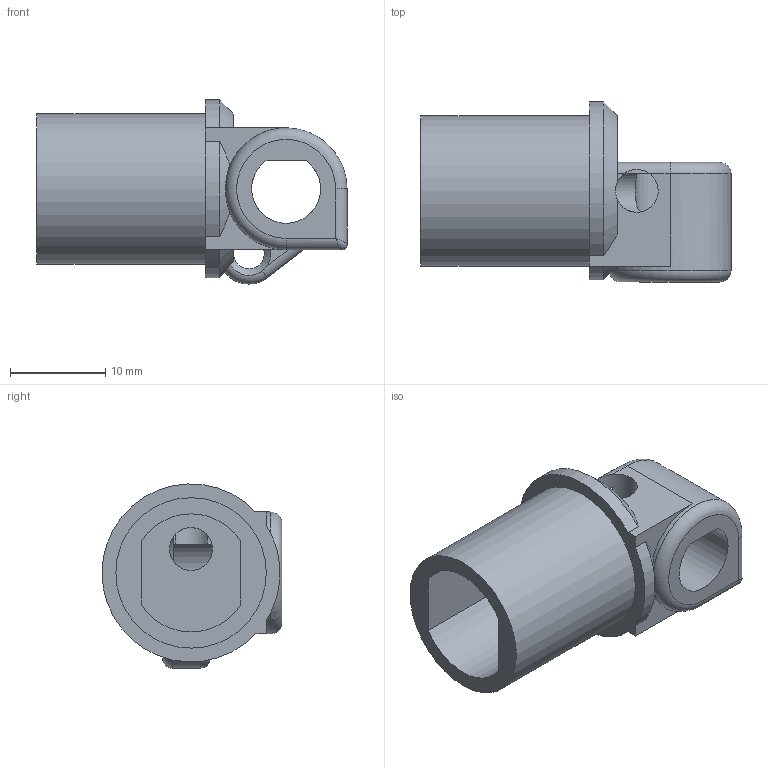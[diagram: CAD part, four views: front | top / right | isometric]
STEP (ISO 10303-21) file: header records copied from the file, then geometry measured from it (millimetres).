
FILE_DESCRIPTION(('Open CASCADE Model'),'2;1');
FILE_NAME('Open CASCADE Shape Model','2026-11-09T05:25:47',('Author'),( 'Open CASCADE'),'Open CASCADE STEP processor 8.0','build123d', 'Unknown');
FILE_SCHEMA(('AUTOMOTIVE_DESIGN { 1 0 10303 214 1 1 1 1 }'));
Length unit declared in the file: millimetre
Products named in the file (1): COMPOUND
Bounding box: 32.57 x 18.9 x 19.34 mm (x, y, z)
Volume: 3537.7 mm3; surface area: 3083.7 mm2
Topology: 1 solids, 1 shells, 59 faces, 172 edges, 109 vertices
Faces by surface type: plane 25, cylinder 24, cone 4, torus 4, bspline 2
Full cylindrical faces by diameter (mm): 3.2 x1, 4.5 x2, 10.4 x1, 15.8 x1
Entity records: 5361 total; most frequent: CARTESIAN_POINT 2133, DIRECTION 574, ORIENTED_EDGE 340, PCURVE 340, DEFINITIONAL_REPRESENTATION 340, LINE 302, VECTOR 302, EDGE_CURVE 170
